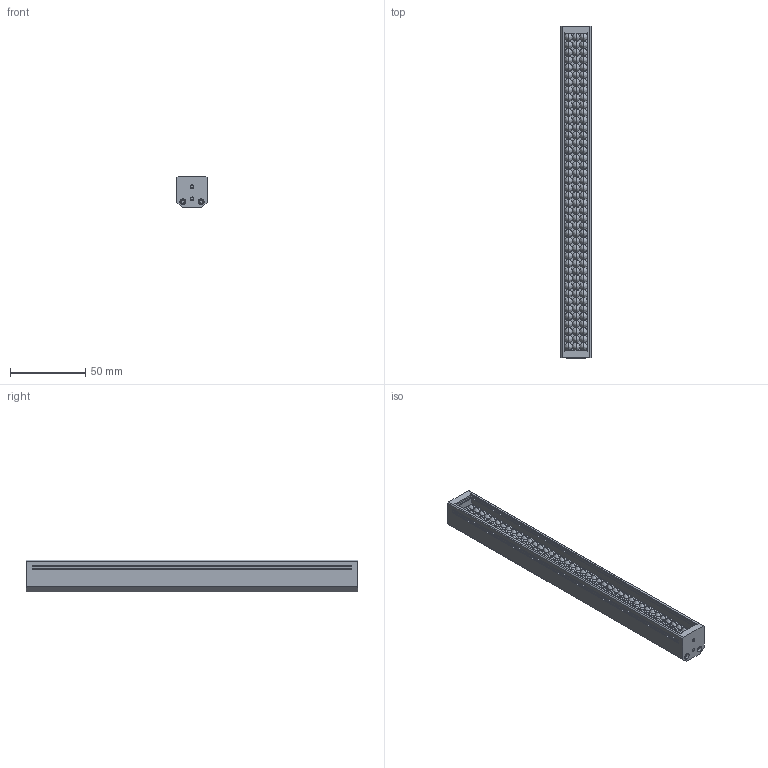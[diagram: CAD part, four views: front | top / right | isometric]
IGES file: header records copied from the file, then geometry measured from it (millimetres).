
Start section: SolidWorks IGES file using analytic representation for surfaces
Global section: file name: C:\Users\Administrator\Desktop\20200117165232380585.IGS; native system: SolidWorks 2019; preprocessor: SolidWorks 2019; author: Administrator; date: 200227.152609; units: millimetre
Bounding box: 20 x 220 x 21 mm (x, y, z)
Surface area: 40392.3 mm2 (no closed solid volume)
Topology: 0 solids, 0 shells, 429 faces, 4396 edges, 4140 vertices
Faces by surface type: bspline 380, revolution 49
